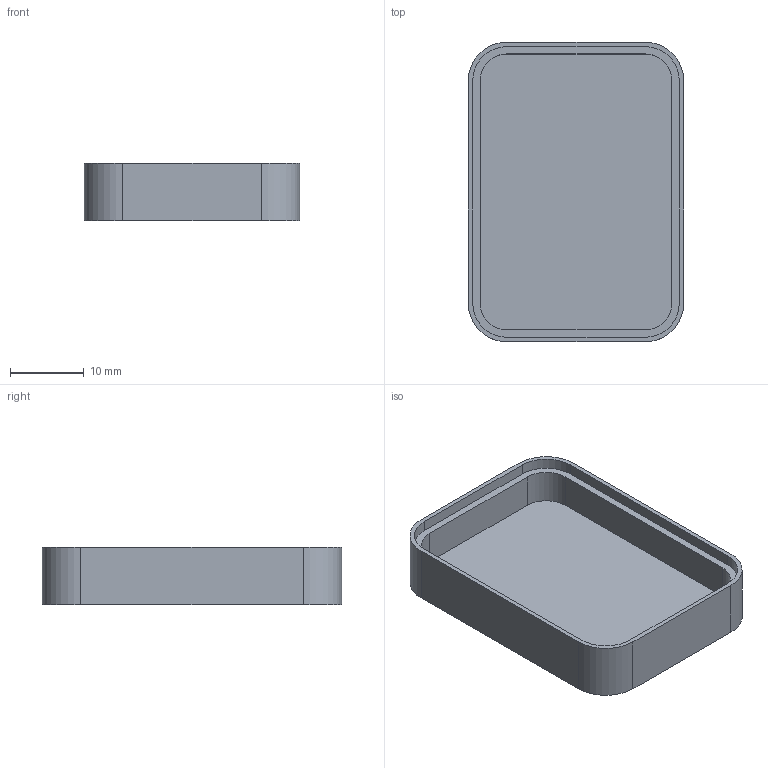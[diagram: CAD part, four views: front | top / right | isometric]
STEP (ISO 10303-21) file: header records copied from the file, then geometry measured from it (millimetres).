
FILE_DESCRIPTION(/* description */ ('STEP AP242 Edition 2','CAx-IF Rec.Pracs.---Representation and Presentation of Product Manufacturing Information (PMI)---4.0---2014-10-13','CAx-IF Rec.Pracs.---3D Tessellated Geometry---0.4---2014-09-14','2;1','CAx-IF Rec.Pracs.---User Defined Attributes---1.5---2016-08-15'),/* implementation_level */ '2;1');
FILE_NAME(/* name */ 'Assembly 1 - Top cover',/* time_stamp */ '2026-09-16T18:36:11Z',/* author */ (''),/* organization */ (''),/* preprocessor_version */ 'ST-DEVELOPER v20',/* originating_system */ 'ONSHAPE BY PTC INC, 1.220',/* authorisation */ ' ');
FILE_SCHEMA (('AP242_MANAGED_MODEL_BASED_3D_ENGINEERING_MIM_LF { 1 0 10303 442 3 1 4 }'));
Length unit declared in the file: centimetre
Products named in the file (1): Top cover
Bounding box: 29.23 x 40.66 x 7.8 mm (x, y, z)
Volume: 2928.1 mm3; surface area: 4108.6 mm2
Topology: 1 solids, 1 shells, 28 faces, 72 edges, 48 vertices
Faces by surface type: plane 16, cylinder 12
Entity records: 882 total; most frequent: DIRECTION 154, CARTESIAN_POINT 149, ORIENTED_EDGE 144, EDGE_CURVE 72, AXIS2_PLACEMENT_3D 53, LINE 48, VECTOR 48, VERTEX_POINT 48
